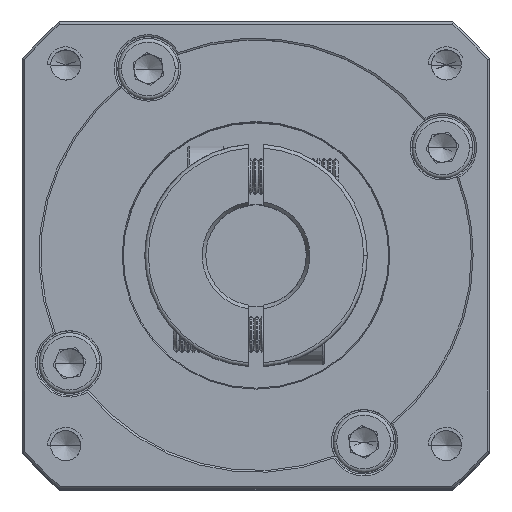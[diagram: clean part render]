
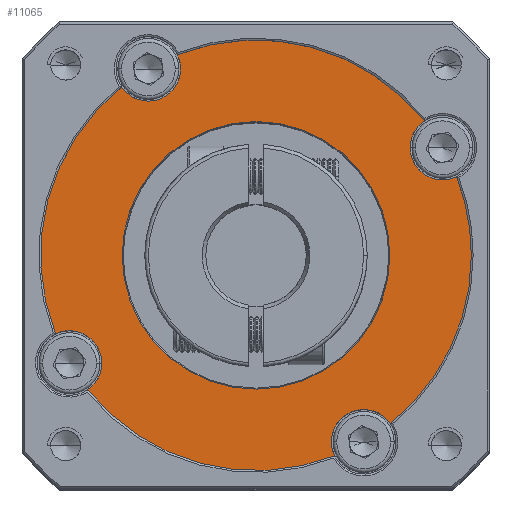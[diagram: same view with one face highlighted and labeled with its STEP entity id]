
A CAD part, top view. The second image highlights one B-rep face of the part: STEP entity #11065.
In plain terms, the highlighted planar face has unit normal (0, 0, 1).
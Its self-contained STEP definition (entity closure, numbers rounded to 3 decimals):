
#1378 = DIRECTION ( 'NONE',  ( 1., 0., 0. ) ) ;
#3332 = FACE_OUTER_BOUND ( 'NONE', #91987, .T. ) ;
#7472 = AXIS2_PLACEMENT_3D ( 'NONE', #15050, #74430, #23714 ) ;
#7738 = DIRECTION ( 'NONE',  ( 1., 0., 0. ) ) ;
#7862 = EDGE_CURVE ( 'NONE', #97066, #96955, #56383, .T. ) ;
#8047 = EDGE_CURVE ( 'NONE', #96038, #38529, #103658, .T. ) ;
#8065 = EDGE_CURVE ( 'NONE', #73372, #65945, #13543, .T. ) ;
#8363 = EDGE_CURVE ( 'NONE', #73372, #21653, #48215, .T. ) ;
#8677 = EDGE_CURVE ( 'NONE', #36095, #21653, #35265, .T. ) ;
#8991 = EDGE_CURVE ( 'NONE', #27547, #106854, #70778, .T. ) ;
#11065 = ADVANCED_FACE ( 'NONE', ( #65938, #3332 ), #91169, .T. ) ;
#13183 = DIRECTION ( 'NONE',  ( 1., 0., 0. ) ) ;
#13288 = DIRECTION ( 'NONE',  ( 0., 0., 1. ) ) ;
#13410 = CARTESIAN_POINT ( 'NONE',  ( -68.651, 65.867, 31.124 ) ) ;
#13543 = CIRCLE ( 'NONE', #79226, 4.5 ) ;
#14870 = CIRCLE ( 'NONE', #64785, 4.5 ) ;
#15050 = CARTESIAN_POINT ( 'NONE',  ( -53.651, 39.886, 31.124 ) ) ;
#15652 = AXIS2_PLACEMENT_3D ( 'NONE', #95774, #45350, #104210 ) ;
#16105 = DIRECTION ( 'NONE',  ( 0., 0., 1. ) ) ;
#20287 = CARTESIAN_POINT ( 'NONE',  ( -64.596, 67.818, 31.124 ) ) ;
#21653 = VERTEX_POINT ( 'NONE', #20287 ) ;
#22158 = EDGE_CURVE ( 'NONE', #96955, #97066, #60567, .T. ) ;
#22798 = CARTESIAN_POINT ( 'NONE',  ( -32.17, 54.886, 31.124 ) ) ;
#22816 = CARTESIAN_POINT ( 'NONE',  ( -81.583, 28.941, 31.124 ) ) ;
#23714 = DIRECTION ( 'NONE',  ( 1., 0., 0. ) ) ;
#26150 = DIRECTION ( 'NONE',  ( 1., 0., 0. ) ) ;
#27337 = CARTESIAN_POINT ( 'NONE',  ( -53.651, 39.886, 31.124 ) ) ;
#27547 = VERTEX_POINT ( 'NONE', #65625 ) ;
#28691 = CARTESIAN_POINT ( 'NONE',  ( -53.651, 39.886, 31.124 ) ) ;
#30343 = DIRECTION ( 'NONE',  ( 0., 0., 1. ) ) ;
#30593 = CARTESIAN_POINT ( 'NONE',  ( -79.631, 24.886, 31.124 ) ) ;
#33532 = CARTESIAN_POINT ( 'NONE',  ( -38.651, 13.905, 31.124 ) ) ;
#34355 = AXIS2_PLACEMENT_3D ( 'NONE', #27337, #86346, #35943 ) ;
#34736 = CARTESIAN_POINT ( 'NONE',  ( -25.719, 50.831, 31.124 ) ) ;
#35084 = AXIS2_PLACEMENT_3D ( 'NONE', #67016, #16105, #75446 ) ;
#35265 = CIRCLE ( 'NONE', #53517, 4.5 ) ;
#35943 = DIRECTION ( 'NONE',  ( 1., 0., 0. ) ) ;
#36095 = VERTEX_POINT ( 'NONE', #71936 ) ;
#36969 = AXIS2_PLACEMENT_3D ( 'NONE', #102984, #52610, #1378 ) ;
#37252 = DIRECTION ( 'NONE',  ( 1., 0., 0. ) ) ;
#37413 = CIRCLE ( 'NONE', #7472, 30. ) ;
#38529 = VERTEX_POINT ( 'NONE', #44967 ) ;
#39123 = VERTEX_POINT ( 'NONE', #55103 ) ;
#42013 = DIRECTION ( 'NONE',  ( 1., 0., 0. ) ) ;
#42862 = CARTESIAN_POINT ( 'NONE',  ( -35.006, 39.886, 31.124 ) ) ;
#43129 = EDGE_CURVE ( 'NONE', #84402, #27547, #75945, .T. ) ;
#44383 = CIRCLE ( 'NONE', #69527, 30. ) ;
#44967 = CARTESIAN_POINT ( 'NONE',  ( -43.151, 13.905, 31.124 ) ) ;
#45350 = DIRECTION ( 'NONE',  ( 0., 0., 1. ) ) ;
#47431 = CARTESIAN_POINT ( 'NONE',  ( -53.651, 39.886, 31.124 ) ) ;
#47500 = EDGE_CURVE ( 'NONE', #95370, #36095, #73681, .T. ) ;
#48215 = CIRCLE ( 'NONE', #69282, 30. ) ;
#48668 = DIRECTION ( 'NONE',  ( 1., 0., 0. ) ) ;
#48911 = DIRECTION ( 'NONE',  ( 0., 0., 1. ) ) ;
#49045 = CARTESIAN_POINT ( 'NONE',  ( -53.651, 39.886, 31.124 ) ) ;
#49166 = EDGE_CURVE ( 'NONE', #38529, #39123, #14870, .T. ) ;
#49763 = AXIS2_PLACEMENT_3D ( 'NONE', #30593, #30343, #26150 ) ;
#52610 = DIRECTION ( 'NONE',  ( 0., 0., 1. ) ) ;
#53517 = AXIS2_PLACEMENT_3D ( 'NONE', #13410, #13288, #13183 ) ;
#53861 = CARTESIAN_POINT ( 'NONE',  ( -53.651, 39.886, 31.124 ) ) ;
#54013 = DIRECTION ( 'NONE',  ( 0., 0., -1. ) ) ;
#54117 = DIRECTION ( 'NONE',  ( 1., 0., 0. ) ) ;
#55103 = CARTESIAN_POINT ( 'NONE',  ( -42.706, 11.954, 31.124 ) ) ;
#55939 = DIRECTION ( 'NONE',  ( 1., 0., 0. ) ) ;
#56138 = CARTESIAN_POINT ( 'NONE',  ( -23.651, 39.886, 31.124 ) ) ;
#56383 = CIRCLE ( 'NONE', #86776, 18.644 ) ;
#57251 = CIRCLE ( 'NONE', #34355, 30. ) ;
#58866 = DIRECTION ( 'NONE',  ( 0., 0., 1. ) ) ;
#60567 = CIRCLE ( 'NONE', #87488, 18.644 ) ;
#63138 = DIRECTION ( 'NONE',  ( 0., 0., 1. ) ) ;
#64144 = EDGE_CURVE ( 'NONE', #65945, #67430, #88364, .T. ) ;
#64785 = AXIS2_PLACEMENT_3D ( 'NONE', #33532, #92459, #42013 ) ;
#65625 = CARTESIAN_POINT ( 'NONE',  ( -75.131, 24.886, 31.124 ) ) ;
#65685 = DIRECTION ( 'NONE',  ( 0., 0., 1. ) ) ;
#65809 = DIRECTION ( 'NONE',  ( 1., 0., 0. ) ) ;
#65938 = FACE_BOUND ( 'NONE', #67619, .T. ) ;
#65945 = VERTEX_POINT ( 'NONE', #22798 ) ;
#66555 = CARTESIAN_POINT ( 'NONE',  ( -77.095, 21.169, 31.124 ) ) ;
#67016 = CARTESIAN_POINT ( 'NONE',  ( -79.631, 24.886, 31.124 ) ) ;
#67293 = CARTESIAN_POINT ( 'NONE',  ( -27.67, 54.886, 31.124 ) ) ;
#67430 = VERTEX_POINT ( 'NONE', #34736 ) ;
#67512 = DIRECTION ( 'NONE',  ( 0., 0., 1. ) ) ;
#67619 = EDGE_LOOP ( 'NONE', ( #78754, #80446 ) ) ;
#67654 = DIRECTION ( 'NONE',  ( 1., 0., 0. ) ) ;
#68379 = EDGE_CURVE ( 'NONE', #71401, #67430, #44383, .T. ) ;
#69282 = AXIS2_PLACEMENT_3D ( 'NONE', #49045, #48911, #48668 ) ;
#69527 = AXIS2_PLACEMENT_3D ( 'NONE', #47431, #106287, #55939 ) ;
#70778 = CIRCLE ( 'NONE', #49763, 4.5 ) ;
#71401 = VERTEX_POINT ( 'NONE', #56138 ) ;
#71936 = CARTESIAN_POINT ( 'NONE',  ( -64.151, 65.867, 31.124 ) ) ;
#73372 = VERTEX_POINT ( 'NONE', #98970 ) ;
#73681 = CIRCLE ( 'NONE', #36969, 4.5 ) ;
#74430 = DIRECTION ( 'NONE',  ( 0., 0., 1. ) ) ;
#75401 = CIRCLE ( 'NONE', #99224, 30. ) ;
#75446 = DIRECTION ( 'NONE',  ( 1., 0., 0. ) ) ;
#75945 = CIRCLE ( 'NONE', #35084, 4.5 ) ;
#78754 = ORIENTED_EDGE ( 'NONE', *, *, #22158, .T. ) ;
#79226 = AXIS2_PLACEMENT_3D ( 'NONE', #67293, #67512, #67654 ) ;
#79612 = CARTESIAN_POINT ( 'NONE',  ( -34.933, 16.441, 31.124 ) ) ;
#79885 = AXIS2_PLACEMENT_3D ( 'NONE', #99329, #65685, #65809 ) ;
#80446 = ORIENTED_EDGE ( 'NONE', *, *, #7862, .T. ) ;
#82336 = ORIENTED_EDGE ( 'NONE', *, *, #43129, .F. ) ;
#83435 = EDGE_CURVE ( 'NONE', #84402, #39123, #37413, .T. ) ;
#83822 = ORIENTED_EDGE ( 'NONE', *, *, #83435, .T. ) ;
#84127 = DIRECTION ( 'NONE',  ( 1., 0., 0. ) ) ;
#84402 = VERTEX_POINT ( 'NONE', #66555 ) ;
#84405 = EDGE_CURVE ( 'NONE', #95370, #106854, #75401, .T. ) ;
#84480 = CARTESIAN_POINT ( 'NONE',  ( -53.651, 39.886, 31.124 ) ) ;
#85047 = EDGE_CURVE ( 'NONE', #96038, #71401, #57251, .T. ) ;
#85479 = ORIENTED_EDGE ( 'NONE', *, *, #49166, .F. ) ;
#85907 = ORIENTED_EDGE ( 'NONE', *, *, #8047, .F. ) ;
#86346 = DIRECTION ( 'NONE',  ( 0., 0., 1. ) ) ;
#86776 = AXIS2_PLACEMENT_3D ( 'NONE', #53861, #54013, #54117 ) ;
#87488 = AXIS2_PLACEMENT_3D ( 'NONE', #28691, #87637, #37252 ) ;
#87637 = DIRECTION ( 'NONE',  ( 0., 0., -1. ) ) ;
#87951 = ORIENTED_EDGE ( 'NONE', *, *, #85047, .T. ) ;
#88364 = CIRCLE ( 'NONE', #15652, 4.5 ) ;
#89808 = ORIENTED_EDGE ( 'NONE', *, *, #68379, .T. ) ;
#91169 = PLANE ( 'NONE',  #104072 ) ;
#91542 = ORIENTED_EDGE ( 'NONE', *, *, #64144, .F. ) ;
#91987 = EDGE_LOOP ( 'NONE', ( #82336, #83822, #85479, #85907, #87951, #89808, #91542, #92956, #95036, #97060, #98725, #100576, #102997 ) ) ;
#92459 = DIRECTION ( 'NONE',  ( 0., 0., 1. ) ) ;
#92956 = ORIENTED_EDGE ( 'NONE', *, *, #8065, .F. ) ;
#95036 = ORIENTED_EDGE ( 'NONE', *, *, #8363, .T. ) ;
#95370 = VERTEX_POINT ( 'NONE', #104124 ) ;
#95774 = CARTESIAN_POINT ( 'NONE',  ( -27.67, 54.886, 31.124 ) ) ;
#96038 = VERTEX_POINT ( 'NONE', #79612 ) ;
#96955 = VERTEX_POINT ( 'NONE', #42862 ) ;
#97060 = ORIENTED_EDGE ( 'NONE', *, *, #8677, .F. ) ;
#97066 = VERTEX_POINT ( 'NONE', #104286 ) ;
#98725 = ORIENTED_EDGE ( 'NONE', *, *, #47500, .F. ) ;
#98970 = CARTESIAN_POINT ( 'NONE',  ( -30.206, 58.603, 31.124 ) ) ;
#99224 = AXIS2_PLACEMENT_3D ( 'NONE', #109164, #58866, #7738 ) ;
#99329 = CARTESIAN_POINT ( 'NONE',  ( -38.651, 13.905, 31.124 ) ) ;
#100576 = ORIENTED_EDGE ( 'NONE', *, *, #84405, .T. ) ;
#102984 = CARTESIAN_POINT ( 'NONE',  ( -68.651, 65.867, 31.124 ) ) ;
#102997 = ORIENTED_EDGE ( 'NONE', *, *, #8991, .F. ) ;
#103658 = CIRCLE ( 'NONE', #79885, 4.5 ) ;
#104072 = AXIS2_PLACEMENT_3D ( 'NONE', #84480, #63138, #84127 ) ;
#104124 = CARTESIAN_POINT ( 'NONE',  ( -72.368, 63.331, 31.124 ) ) ;
#104210 = DIRECTION ( 'NONE',  ( 1., 0., 0. ) ) ;
#104286 = CARTESIAN_POINT ( 'NONE',  ( -72.295, 39.886, 31.124 ) ) ;
#106287 = DIRECTION ( 'NONE',  ( 0., 0., 1. ) ) ;
#106854 = VERTEX_POINT ( 'NONE', #22816 ) ;
#109164 = CARTESIAN_POINT ( 'NONE',  ( -53.651, 39.886, 31.124 ) ) ;
